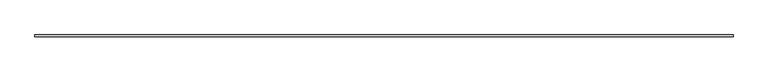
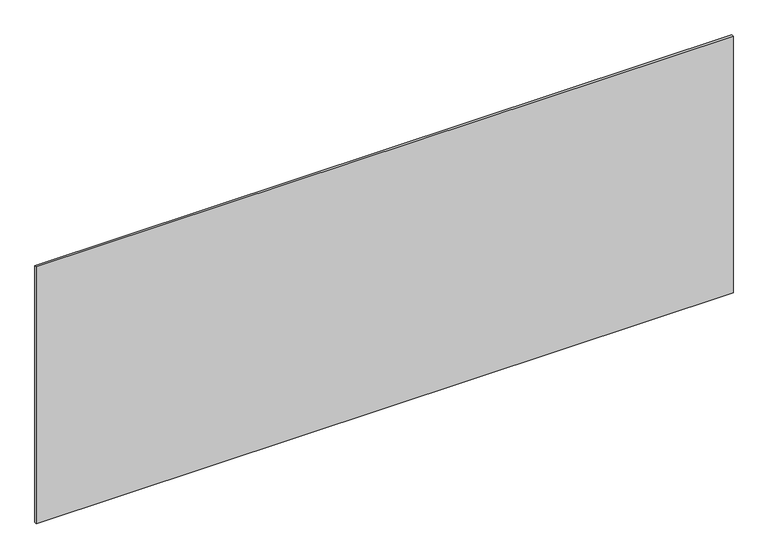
"""IFC4 building model written with IfcOpenShell, lengths in millimetres: plate geometry, システム パネル : 標準."""

from ifc_helpers import new_model, si_unit, origin, origin_with_axes, place, context, project, spatial, polyline, outline, extrude, source, transform, mapped, element, save


def plate_5c5a61a4(model_context):
    return source(origin(), model_context, "Body", "SweptSolid", [
        extrude(outline(polyline([(1697.5, -5.0), (-1697.5, -5.0), (-1697.5, 5.0), (1697.5, 5.0), (1697.5, -5.0)])), origin_with_axes(), (0.0, 0.0, 1.0), 1322.2777309),
    ])


if __name__ == "__main__":
    model = new_model("IFC4")
    model_context = context("Model", 3, world=origin())
    ifc_project = project(units=[si_unit("LENGTHUNIT", "METRE", prefix="MILLI")], contexts=[model_context])
    site = spatial("IfcSite", under=ifc_project)
    building = spatial("IfcBuilding", under=site)
    placement = place(None, origin())
    plate_shape = plate_5c5a61a4(model_context)
    element("IfcPlate", 1, ObjectType="システム パネル : 標準", at=placement, inside=building, context=model_context, shape_type="MappedRepresentation", body=[
        mapped(plate_shape, transform((0.0, 0.0, 0.0), x_axis=(1.0, 0.0, 0.0), y_axis=(0.0, 1.0, 0.0), z_axis=(0.0, 0.0, 1.0))),
    ])
    save(model, "model.ifc")
